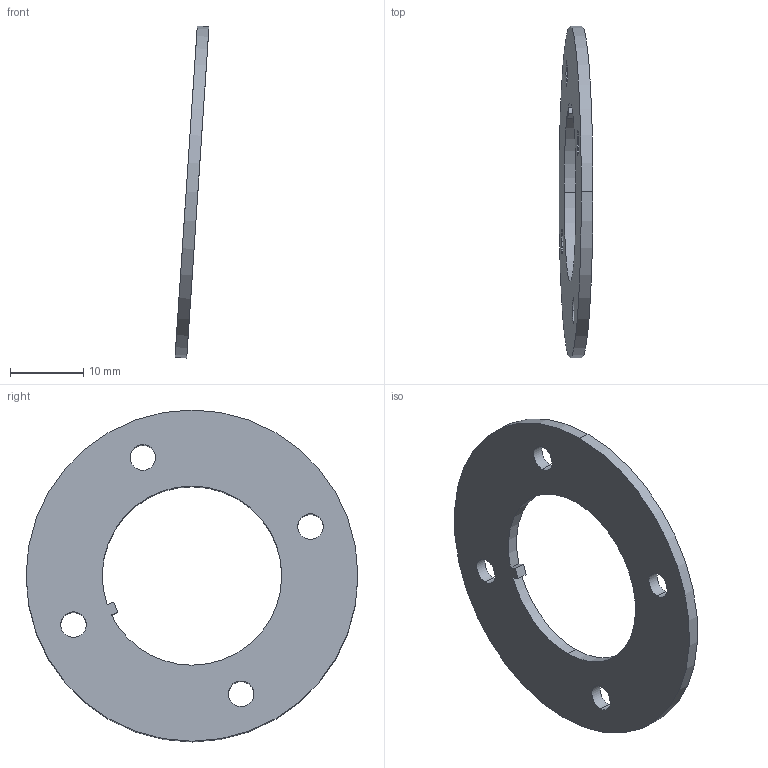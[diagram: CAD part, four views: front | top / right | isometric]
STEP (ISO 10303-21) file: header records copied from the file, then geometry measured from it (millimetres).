
FILE_DESCRIPTION (( 'STEP AP203' ), '1' );
FILE_NAME ('Disque embrayage_2_Défaut_sldprt.STEP', '2018-04-06T14:28:41', ( '' ), ( '' ), 'SwSTEP 2.0', 'SolidWorks 2013', '' );
FILE_SCHEMA (( 'CONFIG_CONTROL_DESIGN' ));
Length unit declared in the file: millimetre
Products named in the file (1): Disque embrayage_2_Défaut_sldprt
Bounding box: 4.64 x 45.3 x 45.31 mm (x, y, z)
Volume: 1765.2 mm3; surface area: 2630.9 mm2
Topology: 1 solids, 1 shells, 18 faces, 48 edges, 32 vertices
Faces by surface type: cylinder 13, plane 5
Entity records: 675 total; most frequent: DIRECTION 112, CARTESIAN_POINT 99, ORIENTED_EDGE 96, EDGE_CURVE 48, AXIS2_PLACEMENT_3D 45, VERTEX_POINT 32, EDGE_LOOP 28, CIRCLE 26
